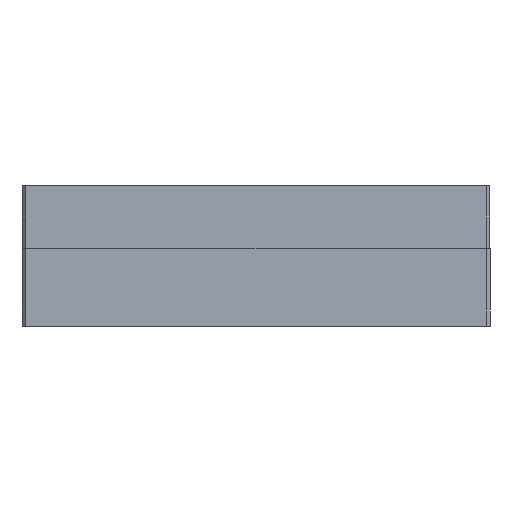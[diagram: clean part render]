
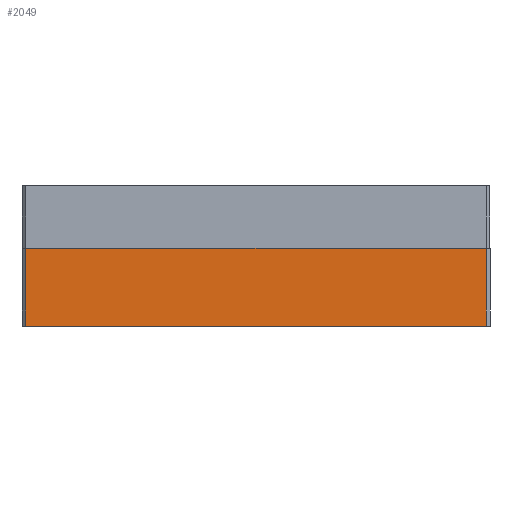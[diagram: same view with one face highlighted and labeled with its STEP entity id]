
A CAD part, front view. The second image highlights one B-rep face of the part: STEP entity #2049.
In plain terms, the highlighted planar face has unit normal (0, -1, 0).
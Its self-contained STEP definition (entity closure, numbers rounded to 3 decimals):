
#210 = CARTESIAN_POINT ( 'NONE',  ( 87.197, -30., 10. ) ) ;
#347 = DIRECTION ( 'NONE',  ( 0., 1., 0. ) ) ;
#366 = CARTESIAN_POINT ( 'NONE',  ( 87.697, -30., 10. ) ) ;
#495 = CARTESIAN_POINT ( 'NONE',  ( 87.197, -30., 10. ) ) ;
#552 = DIRECTION ( 'NONE',  ( 1., 0., 0. ) ) ;
#1161 = DIRECTION ( 'NONE',  ( 1., 0., 0. ) ) ;
#1491 = ORIENTED_EDGE ( 'NONE', *, *, #5573, .T. ) ;
#1861 = VERTEX_POINT ( 'NONE', #2123 ) ;
#1886 = VERTEX_POINT ( 'NONE', #2215 ) ;
#2049 = ADVANCED_FACE ( 'NONE', ( #7155 ), #4335, .F. ) ;
#2123 = CARTESIAN_POINT ( 'NONE',  ( 87.697, -30., 10. ) ) ;
#2215 = CARTESIAN_POINT ( 'NONE',  ( 146.697, -30., 0. ) ) ;
#2694 = DIRECTION ( 'NONE',  ( 0., 0., 1. ) ) ;
#3002 = VECTOR ( 'NONE', #1161, 1000. ) ;
#3078 = EDGE_CURVE ( 'NONE', #1861, #8186, #3737, .T. ) ;
#3143 = CARTESIAN_POINT ( 'NONE',  ( 146.697, -30., 10. ) ) ;
#3380 = CARTESIAN_POINT ( 'NONE',  ( 87.197, -30., 0. ) ) ;
#3737 = LINE ( 'NONE', #495, #3002 ) ;
#3967 = EDGE_LOOP ( 'NONE', ( #6926, #8377, #1491, #5098 ) ) ;
#4335 = PLANE ( 'NONE',  #6998 ) ;
#4350 = DIRECTION ( 'NONE',  ( 0., 0., -1. ) ) ;
#4687 = LINE ( 'NONE', #5445, #8475 ) ;
#4763 = LINE ( 'NONE', #3380, #6250 ) ;
#4915 = DIRECTION ( 'NONE',  ( -1., 0., 0. ) ) ;
#4975 = LINE ( 'NONE', #366, #8492 ) ;
#5098 = ORIENTED_EDGE ( 'NONE', *, *, #7701, .T. ) ;
#5445 = CARTESIAN_POINT ( 'NONE',  ( 146.697, -30., 10. ) ) ;
#5573 = EDGE_CURVE ( 'NONE', #6636, #1886, #4763, .T. ) ;
#6250 = VECTOR ( 'NONE', #552, 1000. ) ;
#6636 = VERTEX_POINT ( 'NONE', #6776 ) ;
#6776 = CARTESIAN_POINT ( 'NONE',  ( 87.697, -30., 0. ) ) ;
#6926 = ORIENTED_EDGE ( 'NONE', *, *, #3078, .F. ) ;
#6998 = AXIS2_PLACEMENT_3D ( 'NONE', #210, #347, #4915 ) ;
#7155 = FACE_OUTER_BOUND ( 'NONE', #3967, .T. ) ;
#7701 = EDGE_CURVE ( 'NONE', #1886, #8186, #4687, .T. ) ;
#8186 = VERTEX_POINT ( 'NONE', #3143 ) ;
#8377 = ORIENTED_EDGE ( 'NONE', *, *, #8785, .T. ) ;
#8475 = VECTOR ( 'NONE', #2694, 1000. ) ;
#8492 = VECTOR ( 'NONE', #4350, 1000. ) ;
#8785 = EDGE_CURVE ( 'NONE', #1861, #6636, #4975, .T. ) ;
